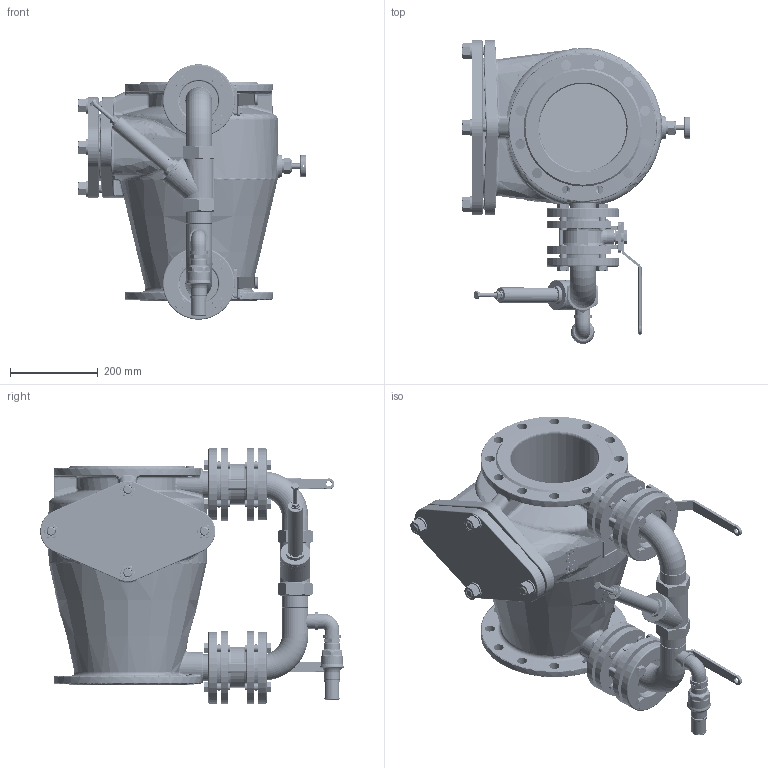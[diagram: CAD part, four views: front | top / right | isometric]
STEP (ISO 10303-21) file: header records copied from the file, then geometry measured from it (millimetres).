
FILE_DESCRIPTION((''),'2;1');
FILE_NAME('Z:\Kunder\BPS\BPS Produkter\BPS 6504\DN 200\6504200.stp','2012-09-05T10:54:28',('Account'),(''),'Autodesk Inventor 2013','Autodesk Inventor 2013','');
FILE_SCHEMA(('AUTOMOTIVE_DESIGN { 1 0 10303 214 1 1 1 1 }'));
Length unit declared in the file: millimetre
Products named in the file (1): Part7
Bounding box: 523.1 x 693.93 x 583.37 mm (x, y, z)
Volume: 98410.1 mm3; surface area: 2741633 mm2
Topology: 25 solids, 40 shells, 4723 faces, 11872 edges, 7535 vertices
Faces by surface type: plane 2318, bspline 929, cylinder 804, cone 396, torus 228, sphere 48
Full cylindrical faces by diameter (mm): 3 x1, 3.242 x1, 4 x3, 5 x1, 8 x4, 10 x5, 10.1 x1, 12 x5, 12.1 x2, 12.5 x2, 14.4 x1, 14.63 x1, 15 x1, 15.6 x2, 16 x35, 16.5 x1, 16.8 x1, 17.5 x16, 18 x8, 18.5 x2, 20 x19, 21 x6, 22.49 x16, 23 x25, 24 x3, 24.2 x2, 25 x1, 26.441 x1, 27 x1, 27.3 x1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
Entity records: 182947 total; most frequent: CARTESIAN_POINT 73820, ORIENTED_EDGE 22476, DIRECTION 19757, EDGE_CURVE 11252, AXIS2_PLACEMENT_3D 7553, VERTEX_POINT 7379, EDGE_LOOP 5691, FACE_OUTER_BOUND 4723
